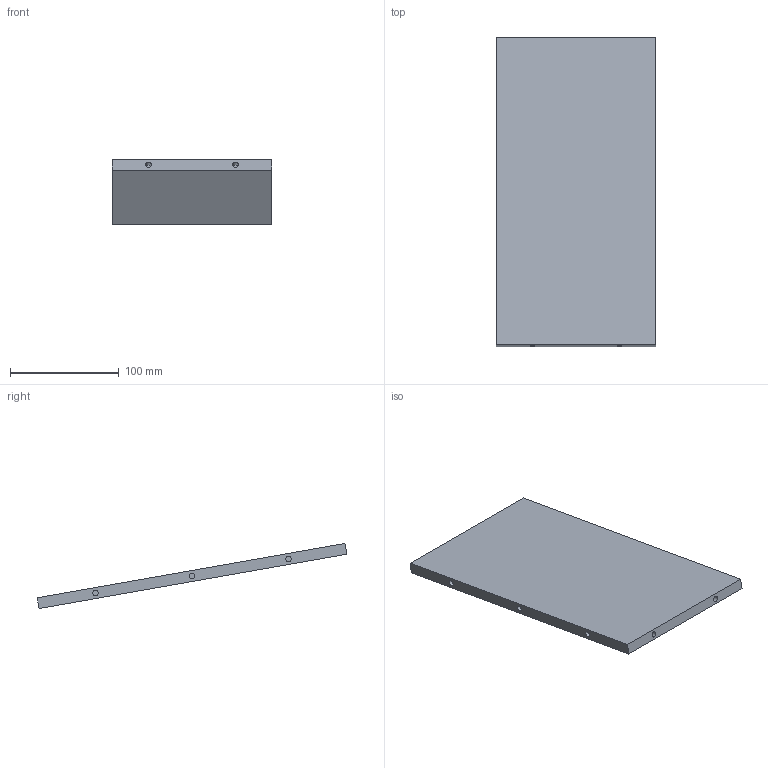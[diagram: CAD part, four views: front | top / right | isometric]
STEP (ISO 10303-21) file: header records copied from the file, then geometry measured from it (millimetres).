
FILE_DESCRIPTION(('golf model'),'2;1');
FILE_NAME('golf','',(''),(''),'golf_step_io','golf','');
FILE_SCHEMA(('AUTOMOTIVE_DESIGN { 1 0 10303 214 1 1 1 1 }'));
Length unit declared in the file: millimetre
Products named in the file (2): ASSEMBLY; gantry_frame.cap_bottom
Assembly tree (1 placements, depth 2):
  ASSEMBLY
    gantry_frame.cap_bottom
Bounding box: 147 x 284.38 x 59.69 mm (x, y, z)
Volume: 420515.6 mm3; surface area: 94157.6 mm2
Topology: 1 solids, 1 shells, 16 faces, 30 edges, 21 vertices
Faces by surface type: plane 11, cylinder 5
Full cylindrical faces by diameter (mm): 5 x5
Entity records: 390 total; most frequent: DIRECTION 68, CARTESIAN_POINT 58, ORIENTED_EDGE 44, AXIS2_PLACEMENT_3D 28, EDGE_LOOP 26, FACE_BOUND 24, EDGE_CURVE 22, VERTEX_POINT 18
